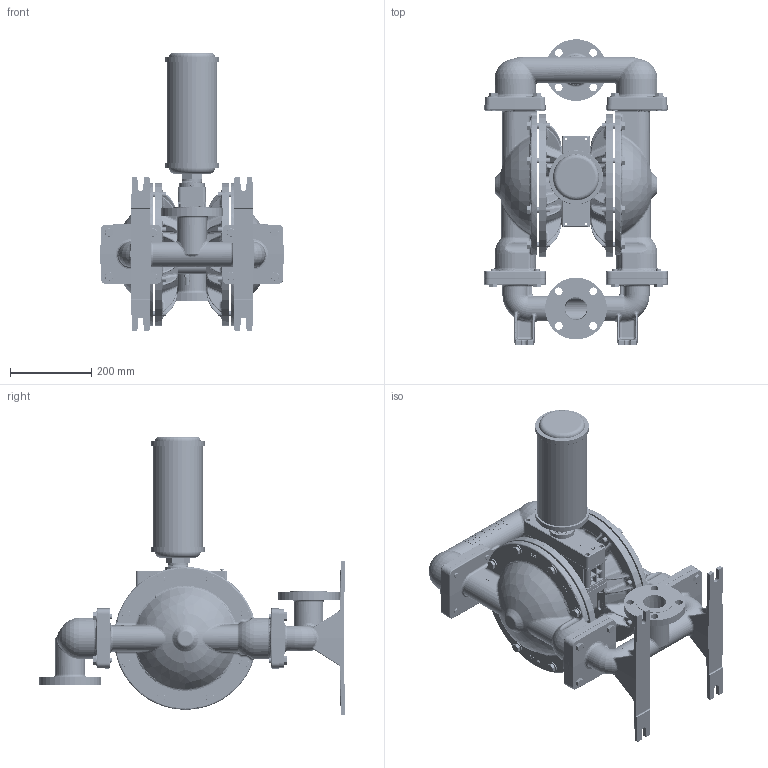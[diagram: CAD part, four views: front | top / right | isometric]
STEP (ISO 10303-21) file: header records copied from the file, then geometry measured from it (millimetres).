
FILE_DESCRIPTION((''),'2;1');
FILE_NAME('PS830_ADV_SS_ANSI','2014-05-13T',('mike.hiatt'),(''),'PRO/ENGINEER BY PARAMETRIC TECHNOLOGY CORPORATION, 2011180','PRO/ENGINEER BY PARAMETRIC TECHNOLOGY CORPORATION, 2011180','');
FILE_SCHEMA(('CONFIG_CONTROL_DESIGN'));
Length unit declared in the file: inch
Products named in the file (1): PS830_ADV_SS_ANSI
Bounding box: 452.41 x 754 x 687.2 mm (x, y, z)
Volume: 15936165.2 mm3; surface area: 2793529.4 mm2
Topology: 7 solids, 14 shells, 15273 faces, 40267 edges, 25658 vertices
Faces by surface type: plane 9825, cylinder 1842, bspline 1669, torus 779, cone 774, sphere 306, extrusion 78
Entity records: 978854 total; most frequent: CARTESIAN_POINT 612937, ORIENTED_EDGE 80474, DIRECTION 69127, EDGE_CURVE 40237, VECTOR 28121, LINE 28043, VERTEX_POINT 25658, AXIS2_PLACEMENT_3D 20503
